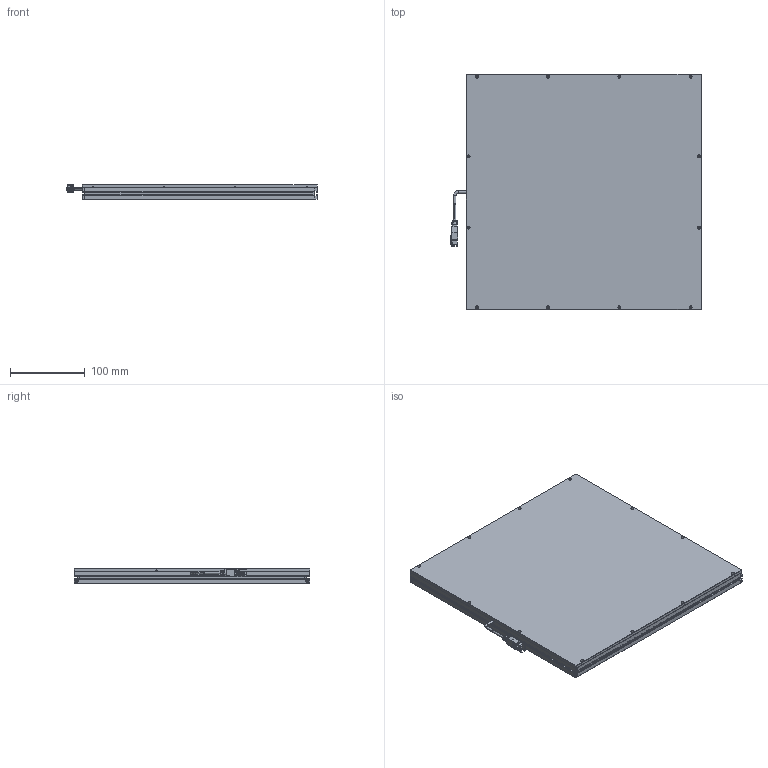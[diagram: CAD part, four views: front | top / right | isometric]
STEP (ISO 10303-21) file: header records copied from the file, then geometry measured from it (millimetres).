
FILE_DESCRIPTION (( 'STEP AP203' ), '1' );
FILE_NAME ('CRT-2FLD300300-¼òÒ×3DÍ¼.STEP', '2021-11-24T01:06:36', ( 'Admin' ), ( '' ), 'SwSTEP 2.0', 'SolidWorks 2018', '' );
FILE_SCHEMA (( 'CONFIG_CONTROL_DESIGN' ));
Length unit declared in the file: millimetre
Products named in the file (1): CRT-2FLD300300-潠眢3D芞
Bounding box: 334.95 x 314 x 20 mm (x, y, z)
Surface area: 338212.7 mm2 (no closed solid volume)
Topology: 0 solids, 8 shells, 296 faces, 1120 edges, 789 vertices
Faces by surface type: plane 166, cylinder 112, cone 11, bspline 5, torus 2
Entity records: 12241 total; most frequent: CARTESIAN_POINT 2783, DIRECTION 1993, ORIENTED_EDGE 1726, EDGE_CURVE 1120, VERTEX_POINT 789, VECTOR 705, LINE 705, AXIS2_PLACEMENT_3D 644
